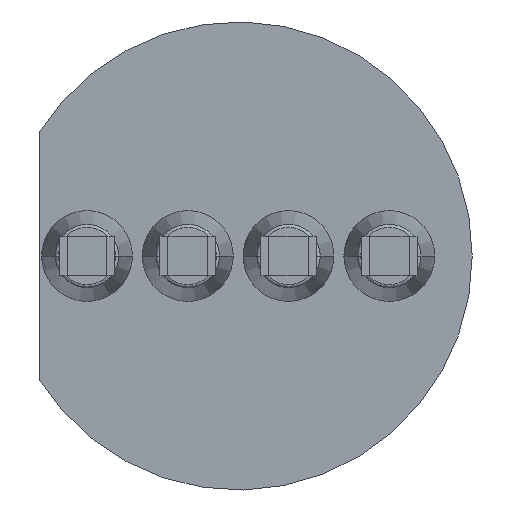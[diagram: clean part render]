
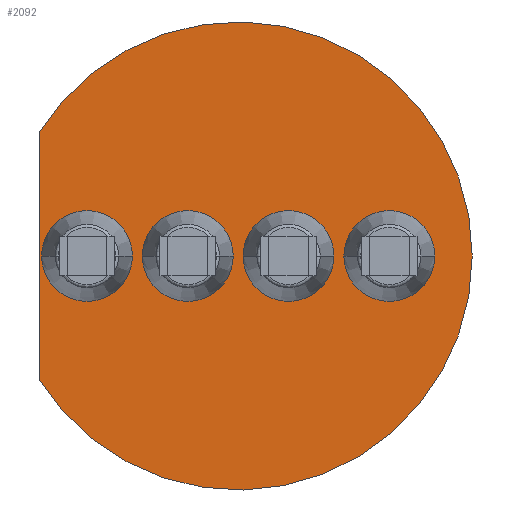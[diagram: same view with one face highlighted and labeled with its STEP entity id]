
A CAD part, front view. The second image highlights one B-rep face of the part: STEP entity #2092.
In plain terms, the highlighted planar face has unit normal (0, -1, 0).
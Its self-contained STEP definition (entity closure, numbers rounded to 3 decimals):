
#4 = FACE_BOUND ( 'NONE', #302, .T. ) ;
#8 = EDGE_CURVE ( 'NONE', #2114, #2113, #2006, .T. ) ;
#30 = EDGE_CURVE ( 'NONE', #2113, #2114, #1533, .T. ) ;
#77 = AXIS2_PLACEMENT_3D ( 'NONE', #1865, #1856, #95 ) ;
#95 = DIRECTION ( 'NONE',  ( -1., 0., 0. ) ) ;
#117 = DIRECTION ( 'NONE',  ( 0., 1., 0. ) ) ;
#125 = DIRECTION ( 'NONE',  ( -1., 0., 0. ) ) ;
#131 = EDGE_CURVE ( 'NONE', #1915, #396, #352, .T. ) ;
#141 = DIRECTION ( 'NONE',  ( -1., 0., 0. ) ) ;
#153 = AXIS2_PLACEMENT_3D ( 'NONE', #1349, #207, #602 ) ;
#197 = CARTESIAN_POINT ( 'NONE',  ( 0.062, 1., 0. ) ) ;
#207 = DIRECTION ( 'NONE',  ( 0., 1., 0. ) ) ;
#230 = CARTESIAN_POINT ( 'NONE',  ( 0., 1., 0. ) ) ;
#231 = AXIS2_PLACEMENT_3D ( 'NONE', #848, #2028, #1824 ) ;
#279 = ORIENTED_EDGE ( 'NONE', *, *, #30, .T. ) ;
#299 = VERTEX_POINT ( 'NONE', #1713 ) ;
#302 = EDGE_LOOP ( 'NONE', ( #613, #2144 ) ) ;
#330 = DIRECTION ( 'NONE',  ( 0., 1., 0. ) ) ;
#337 = VERTEX_POINT ( 'NONE', #986 ) ;
#345 = CIRCLE ( 'NONE', #2074, 0.573 ) ;
#352 = CIRCLE ( 'NONE', #893, 0.573 ) ;
#391 = VERTEX_POINT ( 'NONE', #1357 ) ;
#396 = VERTEX_POINT ( 'NONE', #1577 ) ;
#432 = CARTESIAN_POINT ( 'NONE',  ( -0.635, 1., 0. ) ) ;
#440 = DIRECTION ( 'NONE',  ( 0., 1., 0. ) ) ;
#499 = VERTEX_POINT ( 'NONE', #1220 ) ;
#507 = DIRECTION ( 'NONE',  ( 0., 1., 0. ) ) ;
#514 = CARTESIAN_POINT ( 'NONE',  ( -1.905, 1., 0. ) ) ;
#522 = CARTESIAN_POINT ( 'NONE',  ( -0.062, 1., 0. ) ) ;
#563 = FACE_BOUND ( 'NONE', #1400, .T. ) ;
#602 = DIRECTION ( 'NONE',  ( -1., 0., 0. ) ) ;
#613 = ORIENTED_EDGE ( 'NONE', *, *, #1594, .T. ) ;
#625 = FACE_BOUND ( 'NONE', #2302, .T. ) ;
#627 = EDGE_CURVE ( 'NONE', #299, #499, #2062, .T. ) ;
#637 = ORIENTED_EDGE ( 'NONE', *, *, #1065, .F. ) ;
#685 = DIRECTION ( 'NONE',  ( 0., 1., 0. ) ) ;
#694 = CARTESIAN_POINT ( 'NONE',  ( -0.635, 1., 0. ) ) ;
#722 = CARTESIAN_POINT ( 'NONE',  ( -2.478, 1., 0. ) ) ;
#726 = DIRECTION ( 'NONE',  ( 0., 1., 0. ) ) ;
#751 = CARTESIAN_POINT ( 'NONE',  ( -1.332, 1., 0. ) ) ;
#757 = ORIENTED_EDGE ( 'NONE', *, *, #775, .F. ) ;
#769 = DIRECTION ( 'NONE',  ( -1., 0., 0. ) ) ;
#775 = EDGE_CURVE ( 'NONE', #337, #2105, #1941, .T. ) ;
#784 = AXIS2_PLACEMENT_3D ( 'NONE', #835, #2241, #2229 ) ;
#835 = CARTESIAN_POINT ( 'NONE',  ( 0.635, 1., 0. ) ) ;
#848 = CARTESIAN_POINT ( 'NONE',  ( -1.905, 1., 0. ) ) ;
#893 = AXIS2_PLACEMENT_3D ( 'NONE', #694, #685, #125 ) ;
#936 = EDGE_CURVE ( 'NONE', #391, #337, #2260, .T. ) ;
#986 = CARTESIAN_POINT ( 'NONE',  ( -2.5, 1., -1.566 ) ) ;
#1012 = FACE_BOUND ( 'NONE', #1636, .T. ) ;
#1033 = DIRECTION ( 'NONE',  ( -1., 0., 0. ) ) ;
#1065 = EDGE_CURVE ( 'NONE', #2105, #391, #2127, .T. ) ;
#1074 = ORIENTED_EDGE ( 'NONE', *, *, #8, .T. ) ;
#1124 = CIRCLE ( 'NONE', #1628, 0.573 ) ;
#1146 = EDGE_CURVE ( 'NONE', #499, #299, #1271, .T. ) ;
#1174 = AXIS2_PLACEMENT_3D ( 'NONE', #1889, #117, #2278 ) ;
#1220 = CARTESIAN_POINT ( 'NONE',  ( 2.478, 1., 0. ) ) ;
#1242 = ORIENTED_EDGE ( 'NONE', *, *, #936, .F. ) ;
#1271 = CIRCLE ( 'NONE', #2521, 0.573 ) ;
#1330 = DIRECTION ( 'NONE',  ( 0., 0., 1. ) ) ;
#1349 = CARTESIAN_POINT ( 'NONE',  ( 0., 1., 0. ) ) ;
#1357 = CARTESIAN_POINT ( 'NONE',  ( 2.95, 1., 0. ) ) ;
#1400 = EDGE_LOOP ( 'NONE', ( #279, #1074 ) ) ;
#1410 = VECTOR ( 'NONE', #1330, 1000. ) ;
#1411 = EDGE_CURVE ( 'NONE', #396, #1915, #1124, .T. ) ;
#1472 = ORIENTED_EDGE ( 'NONE', *, *, #131, .T. ) ;
#1476 = CARTESIAN_POINT ( 'NONE',  ( 1.905, 1., 0. ) ) ;
#1514 = AXIS2_PLACEMENT_3D ( 'NONE', #230, #726, #769 ) ;
#1533 = CIRCLE ( 'NONE', #1797, 0.573 ) ;
#1541 = EDGE_LOOP ( 'NONE', ( #637, #757, #1242 ) ) ;
#1577 = CARTESIAN_POINT ( 'NONE',  ( -1.208, 1., 0. ) ) ;
#1594 = EDGE_CURVE ( 'NONE', #1826, #1766, #345, .T. ) ;
#1609 = ORIENTED_EDGE ( 'NONE', *, *, #1411, .T. ) ;
#1628 = AXIS2_PLACEMENT_3D ( 'NONE', #432, #440, #2365 ) ;
#1636 = EDGE_LOOP ( 'NONE', ( #1609, #1472 ) ) ;
#1680 = DIRECTION ( 'NONE',  ( -1., 0., 0. ) ) ;
#1713 = CARTESIAN_POINT ( 'NONE',  ( 1.332, 1., 0. ) ) ;
#1730 = ORIENTED_EDGE ( 'NONE', *, *, #627, .T. ) ;
#1766 = VERTEX_POINT ( 'NONE', #751 ) ;
#1797 = AXIS2_PLACEMENT_3D ( 'NONE', #2223, #2015, #1033 ) ;
#1824 = DIRECTION ( 'NONE',  ( -1., 0., 0. ) ) ;
#1826 = VERTEX_POINT ( 'NONE', #722 ) ;
#1856 = DIRECTION ( 'NONE',  ( 0., 1., 0. ) ) ;
#1865 = CARTESIAN_POINT ( 'NONE',  ( 1.905, 1., 0. ) ) ;
#1889 = CARTESIAN_POINT ( 'NONE',  ( 0., 1., 0. ) ) ;
#1915 = VERTEX_POINT ( 'NONE', #522 ) ;
#1941 = LINE ( 'NONE', #2523, #1410 ) ;
#1948 = FACE_OUTER_BOUND ( 'NONE', #1541, .T. ) ;
#2006 = CIRCLE ( 'NONE', #784, 0.573 ) ;
#2010 = ORIENTED_EDGE ( 'NONE', *, *, #1146, .T. ) ;
#2015 = DIRECTION ( 'NONE',  ( 0., 1., 0. ) ) ;
#2028 = DIRECTION ( 'NONE',  ( 0., 1., 0. ) ) ;
#2062 = CIRCLE ( 'NONE', #77, 0.573 ) ;
#2074 = AXIS2_PLACEMENT_3D ( 'NONE', #514, #330, #1680 ) ;
#2092 = ADVANCED_FACE ( 'NONE', ( #625, #563, #1012, #4, #1948 ), #2404, .F. ) ;
#2105 = VERTEX_POINT ( 'NONE', #2370 ) ;
#2113 = VERTEX_POINT ( 'NONE', #197 ) ;
#2114 = VERTEX_POINT ( 'NONE', #2350 ) ;
#2127 = CIRCLE ( 'NONE', #1174, 2.95 ) ;
#2144 = ORIENTED_EDGE ( 'NONE', *, *, #2468, .T. ) ;
#2223 = CARTESIAN_POINT ( 'NONE',  ( 0.635, 1., 0. ) ) ;
#2229 = DIRECTION ( 'NONE',  ( -1., 0., 0. ) ) ;
#2241 = DIRECTION ( 'NONE',  ( 0., 1., 0. ) ) ;
#2260 = CIRCLE ( 'NONE', #153, 2.95 ) ;
#2278 = DIRECTION ( 'NONE',  ( -1., 0., 0. ) ) ;
#2302 = EDGE_LOOP ( 'NONE', ( #1730, #2010 ) ) ;
#2350 = CARTESIAN_POINT ( 'NONE',  ( 1.208, 1., 0. ) ) ;
#2365 = DIRECTION ( 'NONE',  ( -1., 0., 0. ) ) ;
#2370 = CARTESIAN_POINT ( 'NONE',  ( -2.5, 1., 1.566 ) ) ;
#2401 = CIRCLE ( 'NONE', #231, 0.573 ) ;
#2404 = PLANE ( 'NONE',  #1514 ) ;
#2468 = EDGE_CURVE ( 'NONE', #1766, #1826, #2401, .T. ) ;
#2521 = AXIS2_PLACEMENT_3D ( 'NONE', #1476, #507, #141 ) ;
#2523 = CARTESIAN_POINT ( 'NONE',  ( -2.5, 1., -1.566 ) ) ;
